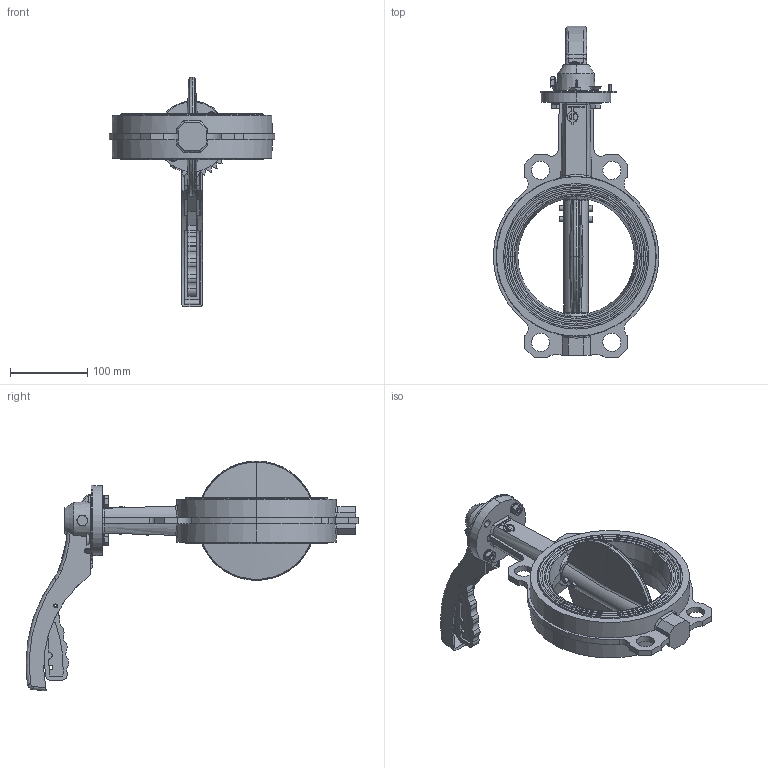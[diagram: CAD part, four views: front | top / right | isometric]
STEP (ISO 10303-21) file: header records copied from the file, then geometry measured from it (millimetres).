
FILE_DESCRIPTION (( 'STEP AP214' ), '1' );
FILE_NAME ('VPG444X-02XX0150-Défaut.step', '2022-05-19T16:19:19', ( '' ), ( '' ), 'SwSTEP 2.0', 'SolidWorks 2020', '' );
FILE_SCHEMA (( 'AUTOMOTIVE_DESIGN' ));
Length unit declared in the file: millimetre
Products named in the file (1): VPG444X-02XX0150-Défaut
Bounding box: 213.62 x 428.91 x 297.08 mm (x, y, z)
Surface area: 288632 mm2 (no closed solid volume)
Topology: 0 solids, 64 shells, 672 faces, 5004 edges, 4363 vertices
Faces by surface type: plane 325, cylinder 158, bspline 100, cone 80, torus 9
Entity records: 73325 total; most frequent: CARTESIAN_POINT 32031, ORIENTED_EDGE 6413, DIRECTION 5500, EDGE_CURVE 5000, VERTEX_POINT 4363, LINE 3106, VECTOR 3106, B_SPLINE_CURVE_WITH_KNOTS 1238
